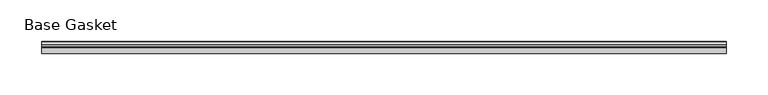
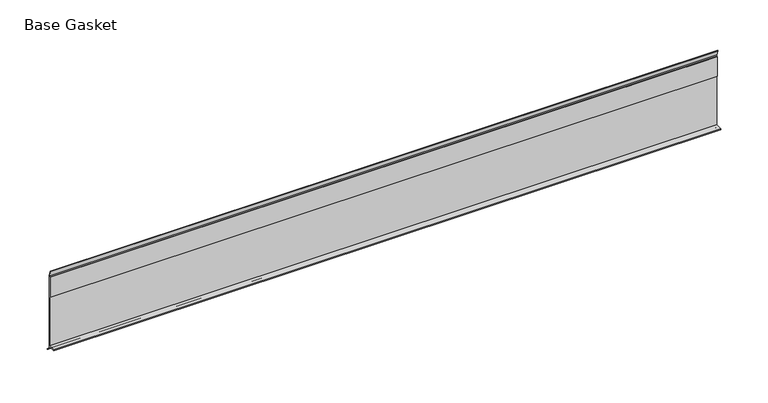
"""IFC4 building model written with IfcOpenShell, lengths in millimetres: furniture geometry, Gasket-Teknion-FHGB-AI_Healthcare-R2021 : Base Gasket."""

from ifc_helpers import new_model, si_unit, frame, origin, place, context, project, spatial, polyline, outline, extrude, source, transform, mapped, element, save


def base_gasket_f4178dae(model_context):
    return source(origin(), model_context, "Body", "SweptSolid", [
        extrude(outline(polyline([(3.7283812, 98.4568417), (3.7283812, 4.3498477), (7.4222115, 0.6560174), (7.8482342, 0.0), (6.8281054, 0.3520979), (2.2043812, 4.3498477), (2.1334222, 6.3818476), (-6.2405171, 6.3818476), (-6.2405171, 7.9398773), (2.2043812, 7.9398773), (2.2043812, 71.4693447), (1.4106313, 71.4693447), (1.4106313, 96.8693477), (2.2043812, 96.8693477), (2.2043812, 98.4568417), (0.6755308, 104.4162708), (0.6755308, 105.2002997), (1.1891543, 104.587663), (3.7283812, 98.4568417)])), frame((-1527.8982117, 0.0, 0.0), z_axis=(1.0, 0.0, 0.0), x_axis=(0.0, 1.0, 0.0)), (0.0, 0.0, 1.0), 818.0090928),
    ])


if __name__ == "__main__":
    model = new_model("IFC4")
    model_context = context("Model", 3, world=origin())
    ifc_project = project(units=[si_unit("LENGTHUNIT", "METRE", prefix="MILLI")], contexts=[model_context])
    site = spatial("IfcSite", under=ifc_project)
    building = spatial("IfcBuilding", under=site)
    placement = place(None, origin())
    base_gasket_shape = base_gasket_f4178dae(model_context)
    element("IfcFurniture", 1, ObjectType="Gasket-Teknion-FHGB-AI_Healthcare-R2021 : Base Gasket", at=placement, inside=building, context=model_context, shape_type="MappedRepresentation", body=[
        mapped(base_gasket_shape, transform((0.0, 0.0, 0.0), x_axis=(1.0, 0.0, 0.0), y_axis=(0.0, 1.0, 0.0), z_axis=(0.0, 0.0, 1.0))),
    ])
    save(model, "model.ifc")
